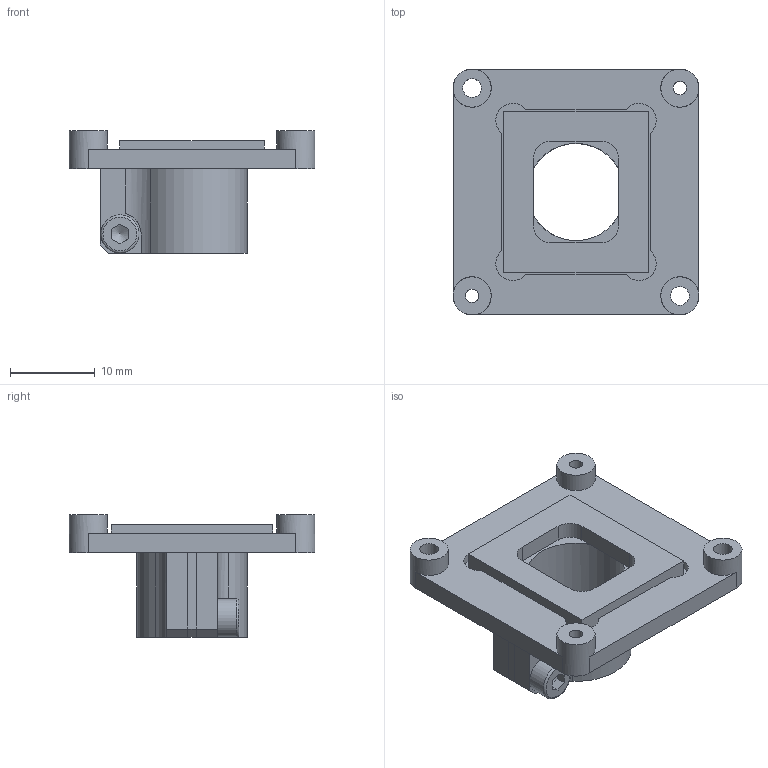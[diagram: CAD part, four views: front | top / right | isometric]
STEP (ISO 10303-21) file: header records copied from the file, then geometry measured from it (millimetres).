
FILE_DESCRIPTION(/* description */ (''),/* implementation_level */ '2;1');
FILE_NAME(/* name */ 'KSM_228-17-0-10-01_ZB MLH10 (Schraube+Silikon+Seal 2).stp',/* time_stamp */ '2026-01-19T19:54:21+01:00',/* author */ ('khw'),/* organization */ ('TIS/ Germany'),/* preprocessor_version */ 'ST-DEVELOPER v20',/* originating_system */ 'Autodesk Inventor 2025',/* authorisation */ '520025 mm^3');
FILE_SCHEMA (('AUTOMOTIVE_DESIGN { 1 0 10303 214 3 1 1 }'));
Length unit declared in the file: millimetre
Products named in the file (3): KSM_228-17-0-10-01_ZB MLH10 (Schraube+Silikon+Dichtkissen4); KSM1_228-17-0-10-01_ZB MLH10 (Schraube+Silikon); 228-17-0-00-02_Dichtrahmen
Assembly tree (2 placements, depth 2):
  KSM_228-17-0-10-01_ZB MLH10 (Schraube+Silikon+Dichtkissen4)
    KSM1_228-17-0-10-01_ZB MLH10 (Schraube+Silikon)
    228-17-0-00-02_Dichtrahmen
Bounding box: 29 x 29 x 14.5 mm (x, y, z)
Volume: 2548.8 mm3; surface area: 3595.7 mm2
Topology: 2 solids, 2 shells, 73 faces, 196 edges, 129 vertices
Faces by surface type: plane 46, cylinder 24, cone 2, torus 1
Full cylindrical faces by diameter (mm): 1.567 x2, 2.013 x1, 2.2 x2, 4.5 x5, 11.459 x1
Entity records: 2527 total; most frequent: CARTESIAN_POINT 444, DIRECTION 402, ORIENTED_EDGE 390, EDGE_CURVE 195, AXIS2_PLACEMENT_3D 139, VERTEX_POINT 129, LINE 124, VECTOR 124
